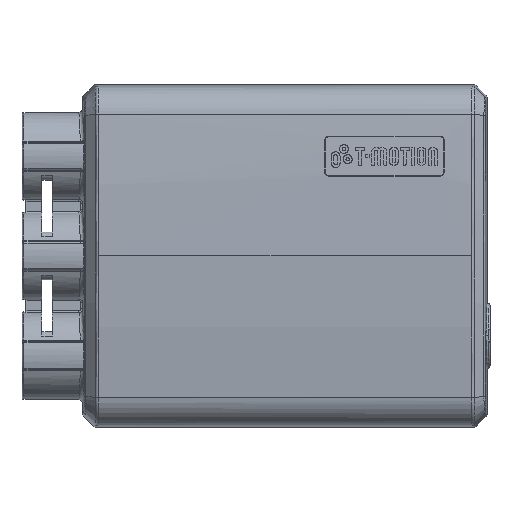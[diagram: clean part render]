
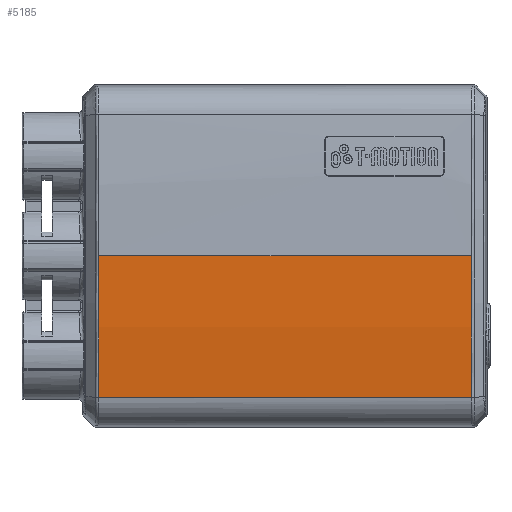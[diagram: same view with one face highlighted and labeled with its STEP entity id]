
A CAD part, top view. The second image highlights one B-rep face of the part: STEP entity #5185.
In plain terms, the highlighted cylindrical face has radius 301.216 mm (diameter 602.433 mm), a partial arc.
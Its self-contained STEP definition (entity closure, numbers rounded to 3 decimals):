
#5097 = ORIENTED_EDGE ( 'NONE', *, *, #5098, .T. ) ;
#5098 = EDGE_CURVE ( 'NONE', #5099, #5100, #25838, .T. ) ;
#5099 = VERTEX_POINT ( 'NONE', #25837 ) ;
#5100 = VERTEX_POINT ( 'NONE', #25836 ) ;
#5101 = ORIENTED_EDGE ( 'NONE', *, *, #5102, .T. ) ;
#5102 = EDGE_CURVE ( 'NONE', #5100, #5103, #25829, .T. ) ;
#5103 = VERTEX_POINT ( 'NONE', #25825 ) ;
#5104 = ORIENTED_EDGE ( 'NONE', *, *, #5105, .T. ) ;
#5105 = EDGE_CURVE ( 'NONE', #5103, #5106, #25823, .T. ) ;
#5106 = VERTEX_POINT ( 'NONE', #25822 ) ;
#5107 = ORIENTED_EDGE ( 'NONE', *, *, #5108, .T. ) ;
#5108 = EDGE_CURVE ( 'NONE', #5106, #5099, #25824, .T. ) ;
#5185 = ADVANCED_FACE ( 'NONE', ( #27004 ), #27003, .T. ) ;
#25820 = CARTESIAN_POINT ( 'NONE',  ( -46.725, -11.906, 20. ) ) ;
#25821 = CARTESIAN_POINT ( 'NONE',  ( -46.725, 0., 20. ) ) ;
#25822 = CARTESIAN_POINT ( 'NONE',  ( -46.798, -35.593, 17.89 ) ) ;
#25823 = B_SPLINE_CURVE_WITH_KNOTS ( 'NONE', 3,
 ( #25821, #25820, #25873, #25872 ),
 .UNSPECIFIED., .F., .F.,
 ( 4, 4 ),
 ( 0.036, 0.071 ),
 .UNSPECIFIED. ) ;
#25824 = LINE ( 'NONE', #25871, #25870 ) ;
#25825 = CARTESIAN_POINT ( 'NONE',  ( -46.725, 0., 20. ) ) ;
#25826 = DIRECTION ( 'NONE',  ( -1., 0., 0. ) ) ;
#25827 = VECTOR ( 'NONE', #25826, 1000. ) ;
#25828 = CARTESIAN_POINT ( 'NONE',  ( 60., 0., 20. ) ) ;
#25829 = LINE ( 'NONE', #25828, #25827 ) ;
#25830 = CARTESIAN_POINT ( 'NONE',  ( 46.796, 0., 20. ) ) ;
#25831 = CARTESIAN_POINT ( 'NONE',  ( 46.796, -5.949, 20. ) ) ;
#25832 = CARTESIAN_POINT ( 'NONE',  ( 46.803, -11.898, 19.824 ) ) ;
#25833 = CARTESIAN_POINT ( 'NONE',  ( 46.828, -23.765, 19.12 ) ) ;
#25834 = CARTESIAN_POINT ( 'NONE',  ( 46.846, -29.686, 18.593 ) ) ;
#25835 = CARTESIAN_POINT ( 'NONE',  ( 46.87, -35.593, 17.89 ) ) ;
#25836 = CARTESIAN_POINT ( 'NONE',  ( 46.796, 0., 20. ) ) ;
#25837 = CARTESIAN_POINT ( 'NONE',  ( 46.87, -35.593, 17.89 ) ) ;
#25838 = B_SPLINE_CURVE_WITH_KNOTS ( 'NONE', 3,
 ( #25835, #25834, #25833, #25832, #25831, #25830 ),
 .UNSPECIFIED., .F., .F.,
 ( 4, 2, 4 ),
 ( 0., 0.018, 0.036 ),
 .UNSPECIFIED. ) ;
#25869 = DIRECTION ( 'NONE',  ( 1., 0., 0. ) ) ;
#25870 = VECTOR ( 'NONE', #25869, 1000. ) ;
#25871 = CARTESIAN_POINT ( 'NONE',  ( 60., -35.593, 17.89 ) ) ;
#25872 = CARTESIAN_POINT ( 'NONE',  ( -46.798, -35.593, 17.89 ) ) ;
#25873 = CARTESIAN_POINT ( 'NONE',  ( -46.751, -23.771, 19.297 ) ) ;
#27003 = CYLINDRICAL_SURFACE ( 'NONE', #27055, 301.216 ) ;
#27004 = FACE_OUTER_BOUND ( 'NONE', #108597, .T. ) ;
#27052 = DIRECTION ( 'NONE',  ( 0., 0., 1. ) ) ;
#27053 = DIRECTION ( 'NONE',  ( -1., 0., 0. ) ) ;
#27054 = CARTESIAN_POINT ( 'NONE',  ( 60., 0., -281.216 ) ) ;
#27055 = AXIS2_PLACEMENT_3D ( 'NONE', #27054, #27053, #27052 ) ;
#108597 = EDGE_LOOP ( 'NONE', ( #5097, #5101, #5104, #5107 ) ) ;
